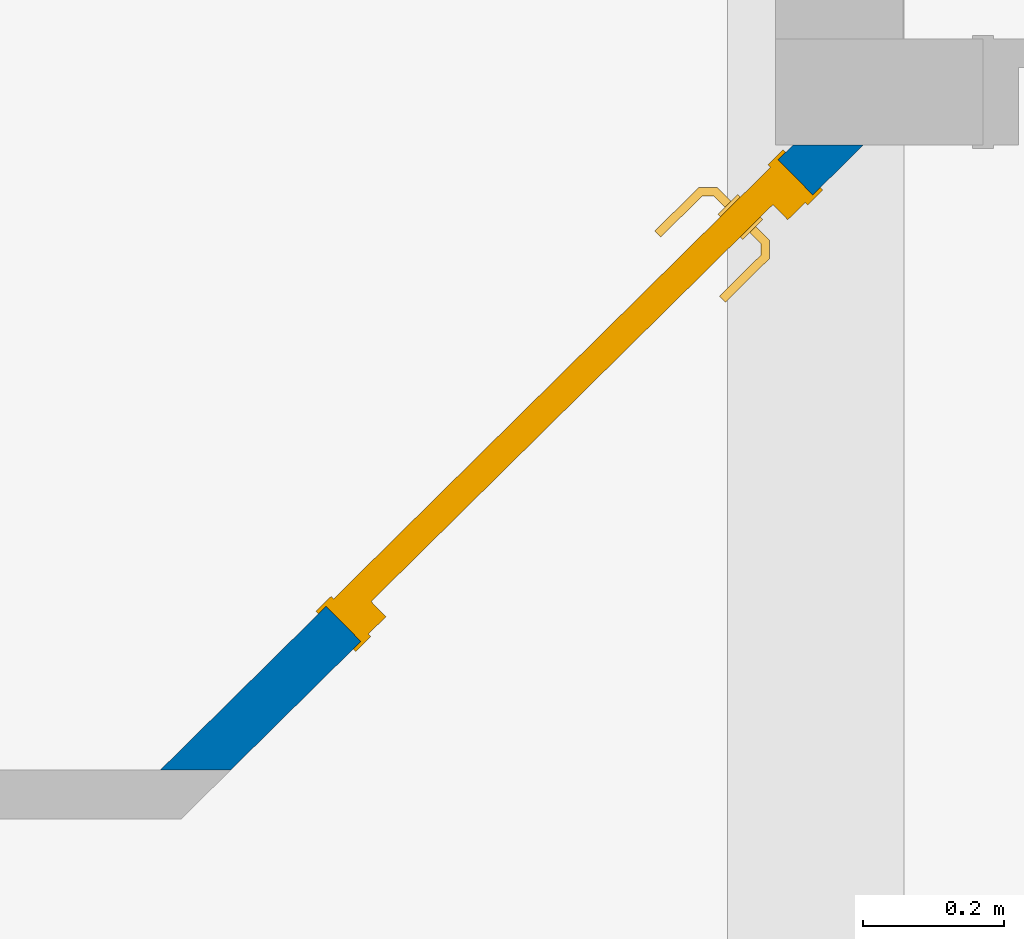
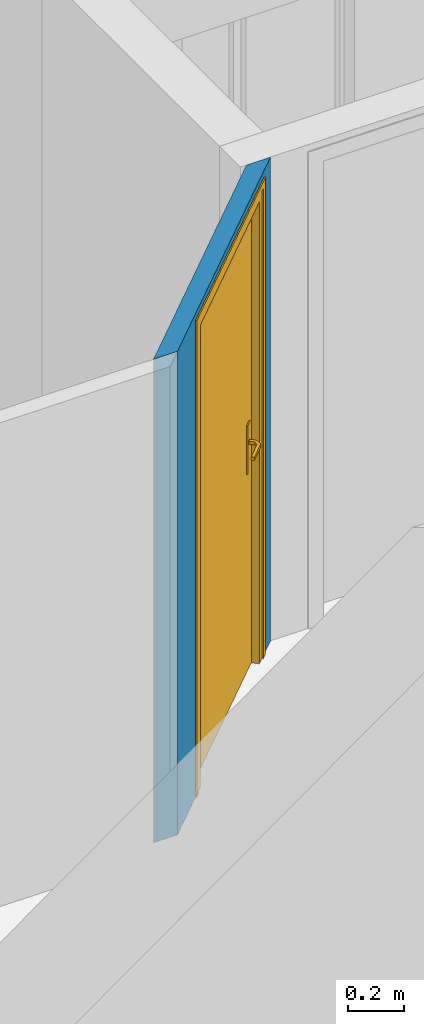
# One storey, part 7 of 32: 1 door, 1 wall, 1 opening.
"""IFC4 building model written with IfcOpenShell, lengths in metres."""

from ifc_helpers import new_model, entity, si_unit, converted_unit, derived_unit, direction, frame, origin, place, context, subcontext, project, spatial, indexed_curve, outline, extrude, polygons, source, transform, mapped, material, material_list, layer, layer_set, constituent, constituent_set, type_object, type_shapes, element, fill, save


model = new_model("IFC4")

# Units and contexts
model_context = context("Model", 3, precision=1e-05, world=origin(), true_north=direction((6.12303176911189e-17, 1.0)))
body_context = subcontext(model_context, "Body", "Model", "MODEL_VIEW")
ifc_project = project(units=[si_unit("LENGTHUNIT", "METRE"), si_unit("AREAUNIT", "SQUARE_METRE"), si_unit("VOLUMEUNIT", "CUBIC_METRE"), converted_unit("PLANEANGLEUNIT", "DEGREE", entity("IfcRatioMeasure", 0.0174532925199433), si_unit("PLANEANGLEUNIT", "RADIAN"), dimensions=[0, 0, 0, 0, 0, 0, 0]), si_unit("MASSUNIT", "GRAM", prefix="KILO"), derived_unit("MASSDENSITYUNIT", [(si_unit("MASSUNIT", "GRAM", prefix="KILO"), 1), (si_unit("LENGTHUNIT", "METRE"), -3)]), derived_unit("MOMENTOFINERTIAUNIT", [(si_unit("LENGTHUNIT", "METRE"), 4)]), si_unit("TIMEUNIT", "SECOND"), si_unit("FREQUENCYUNIT", "HERTZ"), si_unit("THERMODYNAMICTEMPERATUREUNIT", "DEGREE_CELSIUS"), derived_unit("THERMALTRANSMITTANCEUNIT", [(si_unit("MASSUNIT", "GRAM", prefix="KILO"), 1), (si_unit("THERMODYNAMICTEMPERATUREUNIT", "KELVIN"), -1), (si_unit("TIMEUNIT", "SECOND"), -3)]), derived_unit("VOLUMETRICFLOWRATEUNIT", [(si_unit("LENGTHUNIT", "METRE"), 3), (si_unit("TIMEUNIT", "SECOND"), -1)]), si_unit("ELECTRICCURRENTUNIT", "AMPERE"), si_unit("ELECTRICVOLTAGEUNIT", "VOLT"), si_unit("POWERUNIT", "WATT"), si_unit("FORCEUNIT", "NEWTON", prefix="KILO"), si_unit("ILLUMINANCEUNIT", "LUX"), si_unit("LUMINOUSFLUXUNIT", "LUMEN"), si_unit("LUMINOUSINTENSITYUNIT", "CANDELA"), derived_unit("USERDEFINED", [(si_unit("MASSUNIT", "GRAM", prefix="KILO"), -1), (si_unit("LENGTHUNIT", "METRE"), -2), (si_unit("TIMEUNIT", "SECOND"), 3), (si_unit("LUMINOUSFLUXUNIT", "LUMEN"), 1)]), derived_unit("LINEARVELOCITYUNIT", [(si_unit("LENGTHUNIT", "METRE"), 1), (si_unit("TIMEUNIT", "SECOND"), -1)]), si_unit("PRESSUREUNIT", "PASCAL"), derived_unit("USERDEFINED", [(si_unit("LENGTHUNIT", "METRE"), -2), (si_unit("MASSUNIT", "GRAM", prefix="KILO"), 1), (si_unit("TIMEUNIT", "SECOND"), -2)]), derived_unit("LINEARFORCEUNIT", [(si_unit("MASSUNIT", "GRAM", prefix="KILO"), 1), (si_unit("LENGTHUNIT", "METRE"), 1), (si_unit("TIMEUNIT", "SECOND"), -2), (si_unit("LENGTHUNIT", "METRE"), -1)]), derived_unit("PLANARFORCEUNIT", [(si_unit("MASSUNIT", "GRAM", prefix="KILO"), 1), (si_unit("LENGTHUNIT", "METRE"), 1), (si_unit("TIMEUNIT", "SECOND"), -2), (si_unit("LENGTHUNIT", "METRE"), -2)])], contexts=[model_context])

# Site, building, storey
site_placement = place(None, origin())
site = spatial("IfcSite", under=ifc_project, at=site_placement, Name="Default", CompositionType="ELEMENT")
building_placement = place(site_placement, origin())
building = spatial("IfcBuilding", under=site, at=building_placement, Name="HOTEL CONSULAIRE BOULOGNE SUR MER", CompositionType="ELEMENT")
storey_placement = place(building_placement, frame((0.0, 0.0, -2.70343668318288)))
storey = spatial("IfcBuildingStorey", under=building, at=storey_placement, Name="SS1", CompositionType="ELEMENT", Elevation=-2.70343668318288)

# Wall, opening, door
ifc_material_1 = material(Name="Mur par défaut", Category="Divers")
ifc_layer = layer(ifc_material_1, 0.07, Name="Mur par défaut", Category="Divers")
ifc_layer_set = layer_set([ifc_layer], Name="Mur de base:Générique - Int. 70 mm")
wall_type = type_object("IfcWallType", Name="Mur de base:Générique - Int. 70 mm", PredefinedType="NOTDEFINED", material=ifc_layer_set)
wall_placement = place(storey_placement, frame((6.26216856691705, -14.3967222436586, 0.313990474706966), z_axis=(0.0, 0.0, 1.0), x_axis=(0.711415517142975, 0.702771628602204, 0.0)))
wall = element("IfcWall", 1, at=wall_placement, inside=storey, type_object=wall_type, material=ifc_layer_set, Name="Mur de base:Générique - Int. 70 mm", ObjectType="Mur de base:Générique - Int. 70 mm", PredefinedType="NOTDEFINED", context=body_context, shape_type="Tessellation", body=[
    polygons([(1.33038146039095, -0.0349999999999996, 0.0), (1.22965826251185, -0.0349999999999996, 0.0), (1.22965826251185, 0.0350000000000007, 0.0), (1.2595204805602, 0.0350000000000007, 0.0), (1.33038146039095, -0.0349999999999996, 2.11944620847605), (0.0708609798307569, -0.0350000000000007, 2.11944620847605), (0.0708609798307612, -0.0349999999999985, 0.0), (0.329658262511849, -0.0350000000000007, 9.52529303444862e-06), (0.329658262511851, -0.0349999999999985, 2.07500952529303), (1.22965826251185, -0.0349999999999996, 2.07500952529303), (2.16573425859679e-15, 0.0350000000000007, 2.11944620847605), (1.2595204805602, 0.0349999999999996, 2.11944620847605), (1.22965826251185, 0.0349999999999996, 2.07500952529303), (0.329658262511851, 0.0350000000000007, 2.07500952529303), (0.329658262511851, 0.0350000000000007, 0.0), (2.16573425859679e-15, 0.0350000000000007, 0.0)], [[[4, 1, 2, 3]], [[10, 9, 14, 13]], [[15, 7, 16]], [[7, 8, 9, 10, 2, 1, 5, 6]], [[4, 3, 13, 14, 15, 16, 11, 12]], [[6, 5, 12, 11]], [[16, 7, 6, 11]], [[5, 1, 4, 12]], [[9, 8, 15, 14]], [[2, 10, 13, 3]], [[7, 15, 8]]], closed=True),
])
opening_placement = place(wall_placement, frame((0.329658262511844, -0.0350000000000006, 9.52529303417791e-06)))
opening = element("IfcOpeningElement", 2, at=opening_placement, cuts=wall, Name="Int. Simple:PP (0.83m x 2.04m):1", ObjectType="Opening", PredefinedType="OPENING", context=body_context, shape_type="SweptSolid", body=[
    extrude(outline(indexed_curve([(0.0, 0.0), (2.075, 0.0), (2.075, 0.900000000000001), (0.0, 0.900000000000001), (0.0, 0.0)], self_intersect=False)), frame((0.0, 0.0, 0.0), z_axis=(0.0, 1.0, 0.0), x_axis=(0.0, 0.0, 1.0)), (0.0, 0.0, 1.0), 0.07),
])
ifc_material_2 = material(Name="Finition Peinture - Blanc satiné", Category="Peinture")
ifc_constituent_1 = constituent(ifc_material_2, Name="Finition Peinture - Blanc satiné", Category="Matériaux")
ifc_material_3 = material(Name="Bois - Panneau de porte", Category="Bois")
ifc_constituent_2 = constituent(ifc_material_3, Name="Bois - Panneau de porte", Category="Matériaux")
ifc_material_4 = material(Name="Bois - Cadre de porte", Category="Bois")
ifc_constituent_3 = constituent(ifc_material_4, Name="Bois - Cadre de porte", Category="Matériaux")
ifc_constituent_set = constituent_set(constituents=[ifc_constituent_1, ifc_constituent_2, ifc_constituent_3], Name="MaterialConstituentSet")
ifc_material_list = material_list([ifc_material_3, ifc_material_4, ifc_material_4, ifc_material_2])
door_type = type_object("IfcDoorType", Name="Int. Simple:PP (0.83m x 2.04m)", OperationType="NOTDEFINED", PredefinedType="DOOR", material=ifc_material_list)
shared_shape = source(origin(), body_context, "Body", "Tessellation", [
    polygons([(0.0750000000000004, -0.00500000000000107, 0.870000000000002), (0.0846472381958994, -0.00500000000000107, 0.866003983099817), (0.0950000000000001, -0.00500000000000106, 0.86464101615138), (0.105352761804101, -0.00500000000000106, 0.866003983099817), (0.115, -0.00500000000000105, 0.870000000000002), (0.114999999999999, -0.00500000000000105, 1.08), (0.1053527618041, -0.00500000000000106, 1.08399601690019), (0.094999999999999, -0.00500000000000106, 1.08535898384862), (0.0846472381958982, -0.00500000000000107, 1.08399601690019), (0.0749999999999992, -0.00500000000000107, 1.08), (0.0749999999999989, -1.06594733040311e-15, 0.870000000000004), (0.0749999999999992, -1.06594733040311e-15, 1.08), (0.0846472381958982, -1.06171738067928e-15, 1.08399601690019), (0.094999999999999, -1.05748743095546e-15, 1.08535898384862), (0.1053527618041, -1.05325748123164e-15, 1.08399601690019), (0.114999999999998, -1.04902753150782e-15, 1.08), (0.115, -1.04902753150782e-15, 0.870000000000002), (0.105352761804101, -1.05325748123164e-15, 0.866003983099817), (0.0950000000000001, -1.05748743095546e-15, 0.86464101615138), (0.0846472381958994, -1.06171738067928e-15, 0.866003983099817)], [[[4, 5, 6, 7, 8, 9, 10, 1, 2, 3]], [[15, 16, 17, 18, 19, 20, 11, 12, 13, 14]], [[11, 20, 2, 1]], [[2, 20, 19, 3]], [[19, 18, 4, 3]], [[18, 17, 5, 4]], [[6, 5, 17, 16]], [[16, 15, 7, 6]], [[7, 15, 14, 8]], [[14, 13, 9, 8]], [[13, 12, 10, 9]], [[1, 10, 12, 11]]], closed=True),
    polygons([(0.114999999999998, 0.0399999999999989, 1.08), (0.105352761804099, 0.0399999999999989, 1.08399601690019), (0.0949999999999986, 0.0399999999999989, 1.08535898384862), (0.084647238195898, 0.0399999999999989, 1.08399601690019), (0.0749999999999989, 0.0399999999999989, 1.08), (0.0750000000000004, 0.0399999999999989, 0.870000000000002), (0.0846472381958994, 0.0399999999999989, 0.866003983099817), (0.0950000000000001, 0.0399999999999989, 0.86464101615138), (0.105352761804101, 0.0399999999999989, 0.866003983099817), (0.115, 0.0399999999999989, 0.870000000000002), (0.114999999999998, 0.0449999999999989, 1.08), (0.115, 0.0449999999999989, 0.870000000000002), (0.105352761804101, 0.0449999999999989, 0.866003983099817), (0.0950000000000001, 0.0449999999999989, 0.86464101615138), (0.0846472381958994, 0.0449999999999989, 0.866003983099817), (0.0749999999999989, 0.0449999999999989, 0.870000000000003), (0.0749999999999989, 0.0449999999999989, 1.08), (0.084647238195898, 0.0449999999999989, 1.08399601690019), (0.0949999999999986, 0.0449999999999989, 1.08535898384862), (0.105352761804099, 0.0449999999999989, 1.08399601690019)], [[[9, 10, 1, 2, 3, 4, 5, 6, 7, 8]], [[20, 11, 12, 13, 14, 15, 16, 17, 18, 19]], [[11, 20, 2, 1]], [[2, 20, 19, 3]], [[19, 18, 4, 3]], [[18, 17, 5, 4]], [[6, 5, 17, 16]], [[16, 15, 7, 6]], [[7, 15, 14, 8]], [[14, 13, 9, 8]], [[13, 12, 10, 9]], [[1, 10, 12, 11]]], closed=True),
    polygons([(0.0889999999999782, -0.00500000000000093, 1.007), (0.0929747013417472, -0.00500000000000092, 1.00778044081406), (0.0970252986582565, -0.0050000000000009, 1.00778044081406), (0.101000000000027, -0.00500000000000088, 1.00699999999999), (0.101000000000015, -0.00500000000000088, 0.993000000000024), (0.0970252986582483, -0.0050000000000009, 0.992219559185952), (0.0929747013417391, -0.00500000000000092, 0.99221955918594), (0.0889999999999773, -0.00500000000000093, 0.992999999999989), (0.0889999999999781, -0.0326509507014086, 1.007), (0.092974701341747, -0.0310045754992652, 1.00778044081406), (0.0970252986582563, -0.0293267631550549, 1.00778044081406), (0.101000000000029, -0.0276803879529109, 1.007), (0.101000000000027, -0.0276803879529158, 0.993000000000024), (0.0970252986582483, -0.0293267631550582, 0.992219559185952), (0.0929747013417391, -0.0310045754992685, 0.99221955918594), (0.0889999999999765, -0.0326509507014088, 0.992999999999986), (0.107377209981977, -0.0510281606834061, 1.007), (0.10902358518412, -0.0470534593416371, 1.00778044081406), (0.110701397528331, -0.0430028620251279, 1.00778044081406), (0.112347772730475, -0.0390281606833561, 1.007), (0.112347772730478, -0.0390281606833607, 0.993000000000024), (0.110701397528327, -0.0430028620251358, 0.992219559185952), (0.109023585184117, -0.0470534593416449, 0.99221955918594), (0.107377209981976, -0.0510281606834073, 0.992999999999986), (0.195018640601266, -0.0510281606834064, 1.00699999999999), (0.195018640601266, -0.0510281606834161, 0.992999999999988), (0.195018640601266, -0.0470534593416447, 0.99221955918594), (0.195018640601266, -0.0430028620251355, 0.992219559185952), (0.195018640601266, -0.039028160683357, 0.993000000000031), (0.195018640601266, -0.0390281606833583, 1.007), (0.195018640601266, -0.0430028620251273, 1.00778044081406), (0.195018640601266, -0.0470534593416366, 1.00778044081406), (0.147307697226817, -0.0510281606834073, 1.007), (0.152860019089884, -0.045028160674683, 1.0078786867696), (0.15368320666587, -0.039028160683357, 1.007), (0.147307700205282, -0.0510281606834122, 0.992999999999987), (0.152860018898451, -0.0450281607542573, 0.992121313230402), (0.153683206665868, -0.039028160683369, 0.993000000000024)], [[[2, 3, 4, 5, 6, 7, 8, 1]], [[21, 20, 35, 30, 29, 38]], [[9, 10, 2, 1]], [[10, 18, 19, 11, 3, 2]], [[11, 12, 4, 3]], [[5, 4, 12, 13]], [[26, 27, 28, 29, 30, 31, 32, 25]], [[13, 14, 6, 5]], [[14, 22, 23, 15, 7, 6]], [[15, 16, 8, 7]], [[1, 8, 16, 9]], [[17, 18, 10, 9]], [[19, 20, 12, 11]], [[13, 12, 20, 21]], [[21, 22, 14, 13]], [[23, 24, 16, 15]], [[9, 16, 24, 17]], [[33, 32, 34]], [[25, 32, 33]], [[18, 17, 33]], [[34, 35, 19]], [[20, 19, 35]], [[35, 31, 30]], [[32, 31, 34]], [[31, 35, 34]], [[18, 33, 34]], [[18, 34, 19]], [[38, 28, 37]], [[36, 37, 27]], [[21, 38, 22]], [[38, 29, 28]], [[26, 36, 27]], [[24, 23, 36]], [[36, 23, 37]], [[23, 22, 37]], [[22, 38, 37]], [[27, 37, 28]], [[17, 24, 36, 26, 25, 33]]], closed=True),
    polygons([(0.10100000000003, 0.0449999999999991, 0.993000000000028), (0.101000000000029, 0.0449999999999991, 1.007), (0.0970252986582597, 0.0449999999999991, 1.00778044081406), (0.0929747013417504, 0.0449999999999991, 1.00778044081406), (0.0889999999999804, 0.044999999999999, 1.007), (0.0889999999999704, 0.044999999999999, 0.992999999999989), (0.0929747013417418, 0.0449999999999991, 0.99221955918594), (0.0970252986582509, 0.0449999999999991, 0.992219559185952), (0.10100000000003, 0.067485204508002, 0.993000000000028), (0.10100000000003, 0.0674852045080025, 1.007), (0.0970252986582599, 0.0691315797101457, 1.00778044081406), (0.0929747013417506, 0.070809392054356, 1.00778044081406), (0.0889999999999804, 0.0724557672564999, 1.007), (0.0889999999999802, 0.072455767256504, 0.992999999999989), (0.0929747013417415, 0.0708093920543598, 0.99221955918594), (0.0970252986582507, 0.0691315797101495, 0.992219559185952), (0.112485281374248, 0.0789704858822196, 0.993000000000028), (0.112485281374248, 0.0789704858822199, 1.007), (0.110838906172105, 0.0829451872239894, 1.00778044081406), (0.109161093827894, 0.0869957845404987, 1.00778044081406), (0.107514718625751, 0.0909704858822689, 1.007), (0.107514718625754, 0.090970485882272, 0.992999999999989), (0.109161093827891, 0.0869957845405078, 0.99221955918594), (0.110838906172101, 0.0829451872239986, 0.992219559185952), (0.195045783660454, 0.0789704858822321, 0.993000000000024), (0.195045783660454, 0.0829451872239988, 0.992219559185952), (0.195045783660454, 0.086995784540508, 0.99221955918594), (0.195045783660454, 0.0909704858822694, 0.992999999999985), (0.195045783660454, 0.0909704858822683, 1.007), (0.195045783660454, 0.0869957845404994, 1.00778044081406), (0.195045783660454, 0.0829451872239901, 1.00778044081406), (0.195045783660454, 0.0789704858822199, 1.007), (0.147445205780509, 0.0909704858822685, 1.007), (0.152942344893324, 0.0849704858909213, 1.0078786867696), (0.153765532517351, 0.0789704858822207, 1.007), (0.147445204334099, 0.0909704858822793, 0.992999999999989), (0.152942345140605, 0.0849704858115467, 0.992121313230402), (0.153765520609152, 0.0789704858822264, 0.993000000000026)], [[[4, 5, 6, 7, 8, 1, 2, 3]], [[18, 17, 38, 25, 32, 35]], [[2, 1, 9, 10]], [[25, 26, 27, 28, 29, 30, 31, 32]], [[10, 11, 3, 2]], [[11, 19, 20, 12, 4, 3]], [[12, 13, 5, 4]], [[6, 5, 13, 14]], [[14, 15, 7, 6]], [[15, 23, 24, 16, 8, 7]], [[16, 9, 1, 8]], [[10, 9, 17, 18]], [[18, 19, 11, 10]], [[20, 21, 13, 12]], [[14, 13, 21, 22]], [[22, 23, 15, 14]], [[24, 17, 9, 16]], [[35, 31, 34]], [[33, 34, 30]], [[18, 35, 19]], [[35, 32, 31]], [[29, 33, 30]], [[21, 20, 33]], [[33, 20, 34]], [[20, 19, 34]], [[19, 35, 34]], [[30, 34, 31]], [[21, 33, 29, 28, 36, 22]], [[36, 27, 37]], [[28, 27, 36]], [[23, 22, 36]], [[37, 38, 24]], [[17, 24, 38]], [[38, 26, 25]], [[27, 26, 37]], [[26, 38, 37]], [[23, 36, 37]], [[23, 37, 24]]], closed=True),
    polygons([(0.034999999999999, 0.04, 2.04), (0.865, 0.04, 2.04), (0.864999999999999, 0.04, 0.0), (0.034999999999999, 0.04, 0.0), (0.034999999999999, 3.38395977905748e-17, 2.04), (0.034999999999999, 3.38395977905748e-17, 0.0), (0.864999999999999, 3.38395977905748e-17, 0.0), (0.865, 3.38395977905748e-17, 2.04)], [[[4, 1, 2, 3]], [[7, 8, 5, 6]], [[2, 1, 5, 8]], [[3, 2, 8, 7]], [[4, 3, 7, 6]], [[1, 4, 6, 5]]], closed=True),
    polygons([(-1.52954982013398e-14, 4.22994972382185e-18, 0.0), (-1.52954982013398e-14, 0.0699999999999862, 0.0), (0.0500000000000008, 0.0699999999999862, 0.0), (0.0500000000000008, 0.04, 0.0), (0.0349999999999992, 0.04, 0.0), (0.0349999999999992, 4.22994972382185e-18, 0.0), (-1.51601398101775e-14, 4.22994972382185e-18, 2.07500000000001), (-1.51601398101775e-14, 0.0699999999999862, 2.07500000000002), (0.900000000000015, 0.0699999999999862, 2.07500000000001), (0.900000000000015, 0.0699999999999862, 5.8808818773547e-24), (0.849999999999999, 0.0699999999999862, -4.86028664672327e-26), (0.849999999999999, 0.0699999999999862, 2.025), (0.0500000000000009, 0.0699999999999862, 2.025), (0.0500000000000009, 0.04, 2.025), (0.849999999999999, 0.04, 2.025), (0.849999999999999, 0.04, 1.99209647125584e-25), (0.865000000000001, 0.04, 1.51399295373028e-24), (0.865000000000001, 0.04, 2.04), (0.0349999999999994, 0.04, 2.04), (0.0349999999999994, 4.22994972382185e-18, 2.04), (0.865000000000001, 4.22994972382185e-18, 2.04), (0.865000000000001, 4.22994972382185e-18, -1.26556696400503e-24), (0.900000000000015, 4.22994972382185e-18, -3.95490676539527e-25), (0.900000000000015, 4.22994972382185e-18, 2.07500000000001)], [[[5, 6, 1, 2, 3, 4]], [[16, 11, 10, 23, 22, 17]], [[14, 13, 12, 15]], [[20, 19, 18, 21]], [[2, 1, 7, 8]], [[15, 12, 11, 16]], [[21, 18, 17, 22]], [[3, 2, 8, 9, 10, 11, 12, 13]], [[4, 3, 13, 14]], [[6, 5, 19, 20]], [[9, 24, 23, 10]], [[16, 17, 18, 19, 5, 4, 14, 15]], [[22, 23, 24, 7, 1, 6, 20, 21]], [[8, 7, 24, 9]]], closed=True),
    polygons([(0.0149999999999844, 0.0699999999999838, 1.35358391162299e-16), (-0.0150000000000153, 0.0699999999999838, 1.35358391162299e-16), (-0.0150000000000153, 0.0749999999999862, 1.35358391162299e-16), (0.0149999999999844, 0.0749999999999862, 1.35358391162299e-16), (0.0149999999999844, 0.0699999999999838, 2.06000000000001), (0.88499999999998, 0.0699999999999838, 2.06000000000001), (0.88499999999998, 0.0699999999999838, 4.03399441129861e-24), (0.91499999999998, 0.0699999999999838, -4.03399441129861e-24), (0.91499999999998, 0.0699999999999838, 2.09000000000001), (-0.0150000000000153, 0.0699999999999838, 2.09000000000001), (-0.0150000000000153, 0.0749999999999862, 2.09000000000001), (0.91499999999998, 0.0749999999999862, 2.09000000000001), (0.91499999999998, 0.0749999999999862, -4.03399441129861e-24), (0.88499999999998, 0.0749999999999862, 0.0), (0.88499999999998, 0.0749999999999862, 2.06000000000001), (0.0149999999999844, 0.0749999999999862, 2.06000000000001)], [[[2, 3, 4, 1]], [[14, 13, 8, 7]], [[5, 16, 15, 6]], [[7, 8, 9, 10, 2, 1, 5, 6]], [[3, 2, 10, 11]], [[6, 15, 14, 7]], [[4, 3, 11, 12, 13, 14, 15, 16]], [[1, 4, 16, 5]], [[12, 9, 8, 13]], [[11, 10, 9, 12]]], closed=True),
    polygons([(0.0149999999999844, -0.00499999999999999, 1.35358391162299e-16), (-0.0150000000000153, -0.00499999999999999, 1.35358391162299e-16), (-0.0150000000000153, -8.2484019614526e-16, 1.35358391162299e-16), (0.0149999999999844, -8.2484019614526e-16, 1.35358391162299e-16), (0.88499999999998, -0.00499999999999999, -1.35358391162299e-16), (0.88499999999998, -8.2484019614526e-16, -1.35358391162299e-16), (0.91499999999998, -8.2484019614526e-16, -1.35358391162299e-16), (0.91499999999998, -0.00499999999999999, -1.35358391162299e-16), (0.0149999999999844, -0.00499999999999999, 2.06000000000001), (0.88499999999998, -0.00499999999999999, 2.06000000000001), (0.91499999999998, -0.00499999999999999, 2.09000000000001), (-0.0150000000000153, -0.00499999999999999, 2.09000000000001), (-0.0150000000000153, -8.2484019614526e-16, 2.09000000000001), (0.91499999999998, -8.2484019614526e-16, 2.09000000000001), (0.88499999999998, -8.2484019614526e-16, 2.06000000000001), (0.0149999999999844, -8.2484019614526e-16, 2.06000000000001)], [[[2, 3, 4, 1]], [[6, 7, 8, 5]], [[9, 16, 15, 10]], [[5, 8, 11, 12, 2, 1, 9, 10]], [[3, 2, 12, 13]], [[10, 15, 6, 5]], [[4, 3, 13, 14, 7, 6, 15, 16]], [[1, 4, 16, 9]], [[14, 11, 8, 7]], [[13, 12, 11, 14]]], closed=True),
])
type_shapes(door_type, [shared_shape])
door_placement = place(opening_placement, frame((0.900000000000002, 0.0699999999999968, 0.0), z_axis=(0.0, 0.0, 1.0), x_axis=(-1.0, 0.0, 0.0)))
door = element("IfcDoor", 3, at=door_placement, inside=storey, type_object=door_type, material=ifc_constituent_set, Name="Int. Simple:PP (0.83m x 2.04m)", ObjectType="Int. Simple:PP (0.83m x 2.04m)", OperationType="NOTDEFINED", OverallHeight=2.075, OverallWidth=0.900000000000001, PredefinedType="DOOR", context=body_context, shape_type="MappedRepresentation", body=[
    mapped(shared_shape, transform((0.0, 0.0, 0.0), scale=1.0)),
])
fill(opening, door)

save(model, "model.ifc")
